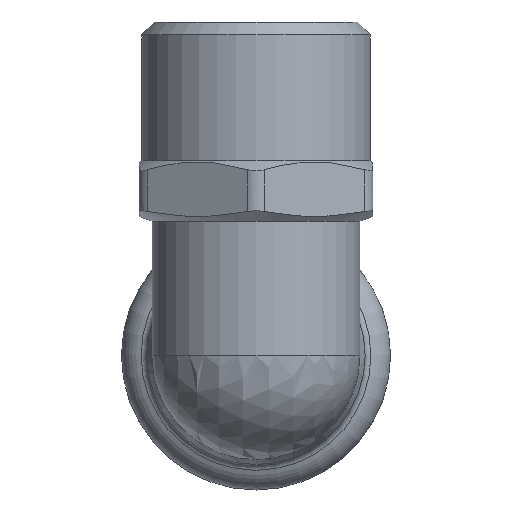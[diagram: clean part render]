
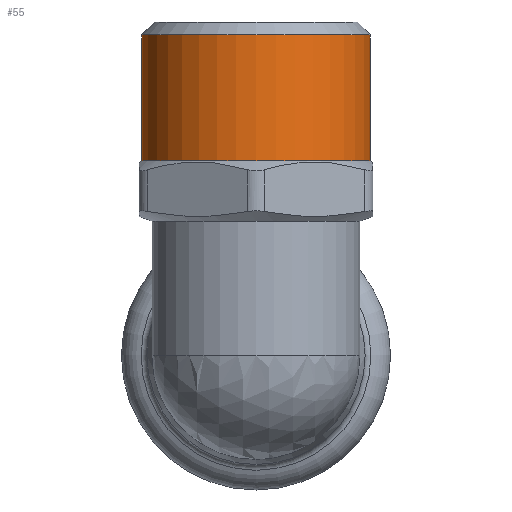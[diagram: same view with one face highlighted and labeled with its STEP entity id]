
A CAD part, front view. The second image highlights one B-rep face of the part: STEP entity #55.
In plain terms, the highlighted cylindrical face has radius 13.22 mm (diameter 26.441 mm), a full revolution.
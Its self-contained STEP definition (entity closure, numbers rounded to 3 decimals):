
#55=ADVANCED_FACE('',(#98,#100),#102,.T.);
#98=FACE_OUTER_BOUND('',#99,.T.);
#99=EDGE_LOOP('',(#316));
#100=FACE_OUTER_BOUND('',#101,.T.);
#101=EDGE_LOOP('',(#317));
#102=CYLINDRICAL_SURFACE('',#103,13.221);
#103=AXIS2_PLACEMENT_3D('',#104,#105,#106);
#104=CARTESIAN_POINT('',(0.,-48.,22.5));
#105=DIRECTION('',(0.,0.,1.));
#106=DIRECTION('',(0.,1.,0.));
#316=ORIENTED_EDGE('',*,*,#424,.F.);
#317=ORIENTED_EDGE('',*,*,#425,.T.);
#424=EDGE_CURVE('',#480,#480,#481,.T.);
#425=EDGE_CURVE('',#482,#482,#483,.T.);
#480=VERTEX_POINT('',#580);
#481=CIRCLE('',#581,13.221);
#482=VERTEX_POINT('',#585);
#483=CIRCLE('',#586,13.221);
#580=CARTESIAN_POINT('',(0.,-34.78,37.));
#581=AXIS2_PLACEMENT_3D('',#582,#583,#584);
#582=CARTESIAN_POINT('',(0.,-48.,37.));
#583=DIRECTION('',(0.,0.,1.));
#584=DIRECTION('',(0.,1.,0.));
#585=CARTESIAN_POINT('',(0.,-34.78,22.5));
#586=AXIS2_PLACEMENT_3D('',#587,#588,#589);
#587=CARTESIAN_POINT('',(0.,-48.,22.5));
#588=DIRECTION('',(0.,0.,1.));
#589=DIRECTION('',(0.,1.,0.));
